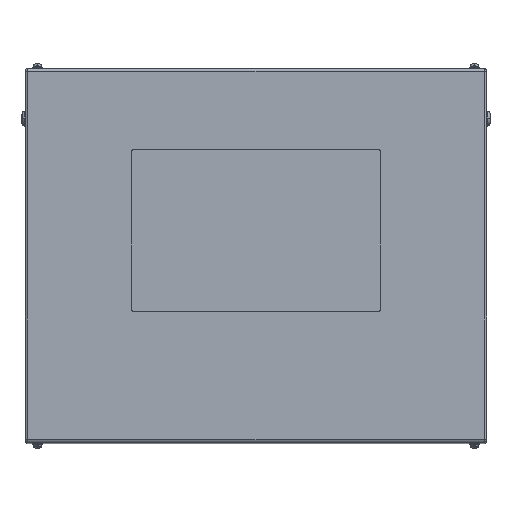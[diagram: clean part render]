
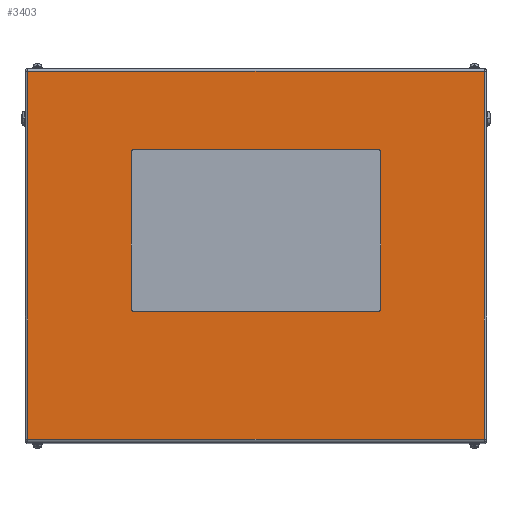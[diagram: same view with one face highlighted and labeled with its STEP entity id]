
A CAD part, top view. The second image highlights one B-rep face of the part: STEP entity #3403.
In plain terms, the highlighted planar face has unit normal (0, 0, 1).
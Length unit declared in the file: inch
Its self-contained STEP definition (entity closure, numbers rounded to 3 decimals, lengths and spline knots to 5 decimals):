
#449 = AXIS2_PLACEMENT_3D ( 'NONE', #21232, #19966, #17900 ) ;
#569 = EDGE_CURVE ( 'NONE', #3977, #10582, #11445, .T. ) ;
#634 = AXIS2_PLACEMENT_3D ( 'NONE', #14356, #17379, #12871 ) ;
#785 = LINE ( 'NONE', #3908, #17473 ) ;
#1293 = EDGE_CURVE ( 'NONE', #13534, #5789, #17113, .T. ) ;
#1360 = LINE ( 'NONE', #11054, #18461 ) ;
#1466 = CARTESIAN_POINT ( 'NONE',  ( 9.75, -4.25, 29. ) ) ;
#1538 = AXIS2_PLACEMENT_3D ( 'NONE', #19705, #9879, #6669 ) ;
#1590 = CARTESIAN_POINT ( 'NONE',  ( 10., 8.25, 29. ) ) ;
#1998 = CARTESIAN_POINT ( 'NONE',  ( 10., -4.25, 29. ) ) ;
#2293 = CARTESIAN_POINT ( 'NONE',  ( -9.75, 8.25, 29. ) ) ;
#2491 = ORIENTED_EDGE ( 'NONE', *, *, #14683, .T. ) ;
#2578 = CARTESIAN_POINT ( 'NONE',  ( -18.3, -14.734, 29. ) ) ;
#2586 = ORIENTED_EDGE ( 'NONE', *, *, #7200, .F. ) ;
#2735 = ORIENTED_EDGE ( 'NONE', *, *, #20125, .F. ) ;
#2781 = FACE_OUTER_BOUND ( 'NONE', #7618, .T. ) ;
#3259 = CARTESIAN_POINT ( 'NONE',  ( 10., 8.25, 29. ) ) ;
#3345 = CARTESIAN_POINT ( 'NONE',  ( 9.75, 8.5, 29. ) ) ;
#3350 = LINE ( 'NONE', #5061, #5585 ) ;
#3403 = ADVANCED_FACE ( 'NONE', ( #9145, #2781 ), #20652, .F. ) ;
#3455 = CARTESIAN_POINT ( 'NONE',  ( -18.3, 14.734, 29. ) ) ;
#3546 = ORIENTED_EDGE ( 'NONE', *, *, #1293, .T. ) ;
#3908 = CARTESIAN_POINT ( 'NONE',  ( 18.3, 15., 29. ) ) ;
#3955 = CIRCLE ( 'NONE', #19796, 0.25 ) ;
#3977 = VERTEX_POINT ( 'NONE', #1998 ) ;
#4313 = ORIENTED_EDGE ( 'NONE', *, *, #569, .F. ) ;
#5061 = CARTESIAN_POINT ( 'NONE',  ( -9.75, 8.5, 29. ) ) ;
#5496 = AXIS2_PLACEMENT_3D ( 'NONE', #2293, #13929, #15432 ) ;
#5585 = VECTOR ( 'NONE', #16477, 39.37008 ) ;
#5789 = VERTEX_POINT ( 'NONE', #12272 ) ;
#5829 = CIRCLE ( 'NONE', #5496, 0.25 ) ;
#6108 = CARTESIAN_POINT ( 'NONE',  ( -10., 8.25, 29. ) ) ;
#6669 = DIRECTION ( 'NONE',  ( -1., 0., 0. ) ) ;
#7200 = EDGE_CURVE ( 'NONE', #8821, #11698, #21071, .T. ) ;
#7538 = ORIENTED_EDGE ( 'NONE', *, *, #13008, .F. ) ;
#7618 = EDGE_LOOP ( 'NONE', ( #2491, #3546, #12671, #18370 ) ) ;
#8012 = EDGE_CURVE ( 'NONE', #8346, #10209, #1360, .T. ) ;
#8061 = DIRECTION ( 'NONE',  ( 0., 0., 1. ) ) ;
#8346 = VERTEX_POINT ( 'NONE', #20600 ) ;
#8391 = VECTOR ( 'NONE', #16089, 39.37008 ) ;
#8821 = VERTEX_POINT ( 'NONE', #15993 ) ;
#9090 = EDGE_CURVE ( 'NONE', #10582, #12431, #11309, .T. ) ;
#9145 = FACE_BOUND ( 'NONE', #12614, .T. ) ;
#9228 = CARTESIAN_POINT ( 'NONE',  ( 9.75, -4.5, 29. ) ) ;
#9269 = EDGE_CURVE ( 'NONE', #5789, #8346, #785, .T. ) ;
#9879 = DIRECTION ( 'NONE',  ( 0., 0., -1. ) ) ;
#9973 = VERTEX_POINT ( 'NONE', #9228 ) ;
#10177 = EDGE_CURVE ( 'NONE', #20470, #13691, #5829, .T. ) ;
#10209 = VERTEX_POINT ( 'NONE', #3455 ) ;
#10582 = VERTEX_POINT ( 'NONE', #1590 ) ;
#11054 = CARTESIAN_POINT ( 'NONE',  ( 18.5, 14.734, 29. ) ) ;
#11231 = CARTESIAN_POINT ( 'NONE',  ( -9.75, 8.5, 29. ) ) ;
#11309 = CIRCLE ( 'NONE', #634, 0.25 ) ;
#11445 = LINE ( 'NONE', #3259, #15314 ) ;
#11492 = DIRECTION ( 'NONE',  ( 1., 0., 0. ) ) ;
#11698 = VERTEX_POINT ( 'NONE', #13614 ) ;
#11903 = ORIENTED_EDGE ( 'NONE', *, *, #12910, .F. ) ;
#11957 = CARTESIAN_POINT ( 'NONE',  ( -10., 8.25, 29. ) ) ;
#12272 = CARTESIAN_POINT ( 'NONE',  ( 18.3, -14.734, 29. ) ) ;
#12431 = VERTEX_POINT ( 'NONE', #3345 ) ;
#12614 = EDGE_LOOP ( 'NONE', ( #20938, #2586, #11903, #14141, #2735, #21158, #4313, #7538 ) ) ;
#12671 = ORIENTED_EDGE ( 'NONE', *, *, #9269, .T. ) ;
#12871 = DIRECTION ( 'NONE',  ( -1., 0., 0. ) ) ;
#12910 = EDGE_CURVE ( 'NONE', #13691, #8821, #19011, .T. ) ;
#13008 = EDGE_CURVE ( 'NONE', #9973, #3977, #3955, .T. ) ;
#13304 = VECTOR ( 'NONE', #16788, 39.37008 ) ;
#13440 = DIRECTION ( 'NONE',  ( 0., -1., 0. ) ) ;
#13444 = CARTESIAN_POINT ( 'NONE',  ( -9.75, -4.5, 29. ) ) ;
#13447 = VECTOR ( 'NONE', #15511, 39.37008 ) ;
#13534 = VERTEX_POINT ( 'NONE', #2578 ) ;
#13601 = DIRECTION ( 'NONE',  ( 0., 1., 0. ) ) ;
#13614 = CARTESIAN_POINT ( 'NONE',  ( -9.75, -4.5, 29. ) ) ;
#13691 = VERTEX_POINT ( 'NONE', #11957 ) ;
#13929 = DIRECTION ( 'NONE',  ( 0., 0., 1. ) ) ;
#14001 = CARTESIAN_POINT ( 'NONE',  ( 18.3, -14.734, 29. ) ) ;
#14141 = ORIENTED_EDGE ( 'NONE', *, *, #10177, .F. ) ;
#14356 = CARTESIAN_POINT ( 'NONE',  ( 9.75, 8.25, 29. ) ) ;
#14683 = EDGE_CURVE ( 'NONE', #10209, #13534, #16887, .T. ) ;
#14778 = DIRECTION ( 'NONE',  ( 0., 1., 0. ) ) ;
#15291 = CARTESIAN_POINT ( 'NONE',  ( -18.3, 15., 29. ) ) ;
#15314 = VECTOR ( 'NONE', #14778, 39.37008 ) ;
#15432 = DIRECTION ( 'NONE',  ( 1., 0., 0. ) ) ;
#15511 = DIRECTION ( 'NONE',  ( 1., 0., 0. ) ) ;
#15993 = CARTESIAN_POINT ( 'NONE',  ( -10., -4.25, 29. ) ) ;
#16089 = DIRECTION ( 'NONE',  ( 0., -1., 0. ) ) ;
#16477 = DIRECTION ( 'NONE',  ( -1., 0., 0. ) ) ;
#16573 = EDGE_CURVE ( 'NONE', #11698, #9973, #18720, .T. ) ;
#16788 = DIRECTION ( 'NONE',  ( 1., 0., 0. ) ) ;
#16887 = LINE ( 'NONE', #15291, #19388 ) ;
#17113 = LINE ( 'NONE', #14001, #13447 ) ;
#17379 = DIRECTION ( 'NONE',  ( 0., 0., 1. ) ) ;
#17473 = VECTOR ( 'NONE', #13601, 39.37008 ) ;
#17615 = DIRECTION ( 'NONE',  ( -1., 0., 0. ) ) ;
#17900 = DIRECTION ( 'NONE',  ( 1., 0., 0. ) ) ;
#18370 = ORIENTED_EDGE ( 'NONE', *, *, #8012, .T. ) ;
#18461 = VECTOR ( 'NONE', #17615, 39.37008 ) ;
#18720 = LINE ( 'NONE', #13444, #13304 ) ;
#19011 = LINE ( 'NONE', #6108, #8391 ) ;
#19388 = VECTOR ( 'NONE', #13440, 39.37008 ) ;
#19705 = CARTESIAN_POINT ( 'NONE',  ( 18.5, 15., 29. ) ) ;
#19796 = AXIS2_PLACEMENT_3D ( 'NONE', #1466, #8061, #11492 ) ;
#19966 = DIRECTION ( 'NONE',  ( 0., 0., 1. ) ) ;
#20125 = EDGE_CURVE ( 'NONE', #12431, #20470, #3350, .T. ) ;
#20470 = VERTEX_POINT ( 'NONE', #11231 ) ;
#20600 = CARTESIAN_POINT ( 'NONE',  ( 18.3, 14.734, 29. ) ) ;
#20652 = PLANE ( 'NONE',  #1538 ) ;
#20938 = ORIENTED_EDGE ( 'NONE', *, *, #16573, .F. ) ;
#21071 = CIRCLE ( 'NONE', #449, 0.25 ) ;
#21158 = ORIENTED_EDGE ( 'NONE', *, *, #9090, .F. ) ;
#21232 = CARTESIAN_POINT ( 'NONE',  ( -9.75, -4.25, 29. ) ) ;
